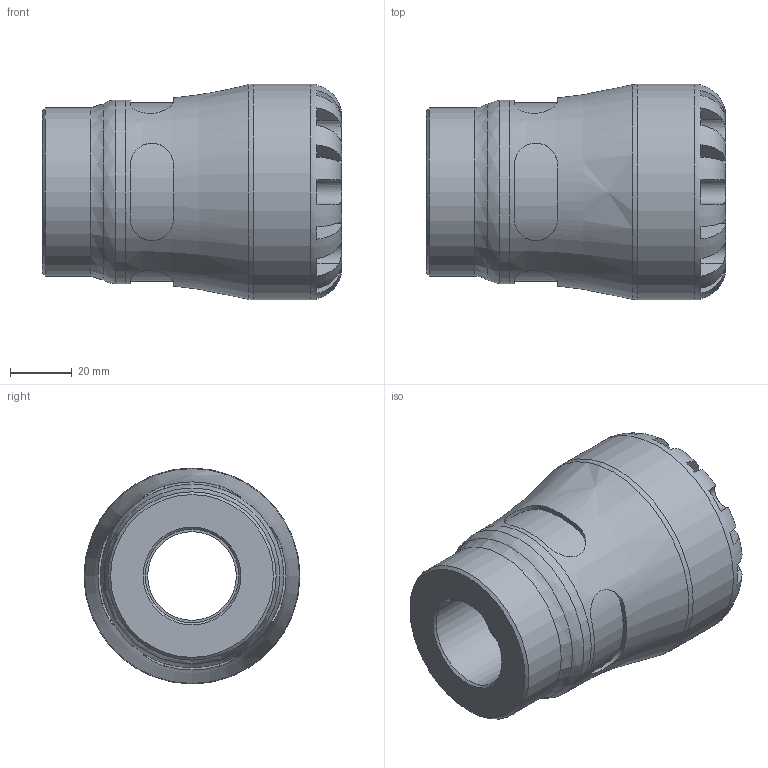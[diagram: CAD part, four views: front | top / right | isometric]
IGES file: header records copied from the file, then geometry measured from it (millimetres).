
Global section: file name: 100300040010_190300040010.ipt; native system: Autodesk Inventor 2015; preprocessor: unknown; author: KIM; date: 20170122.094950; units: millimetre
Bounding box: 97 x 70 x 70 mm (x, y, z)
Volume: 188013.4 mm3; surface area: 36769.7 mm2
Topology: 1 solids, 1 shells, 104 faces, 270 edges, 174 vertices
Faces by surface type: plane 61, revolution 27, cylinder 15, cone 1
Full cylindrical faces by diameter (mm): 54.6 x1, 59.5 x1, 70 x1
